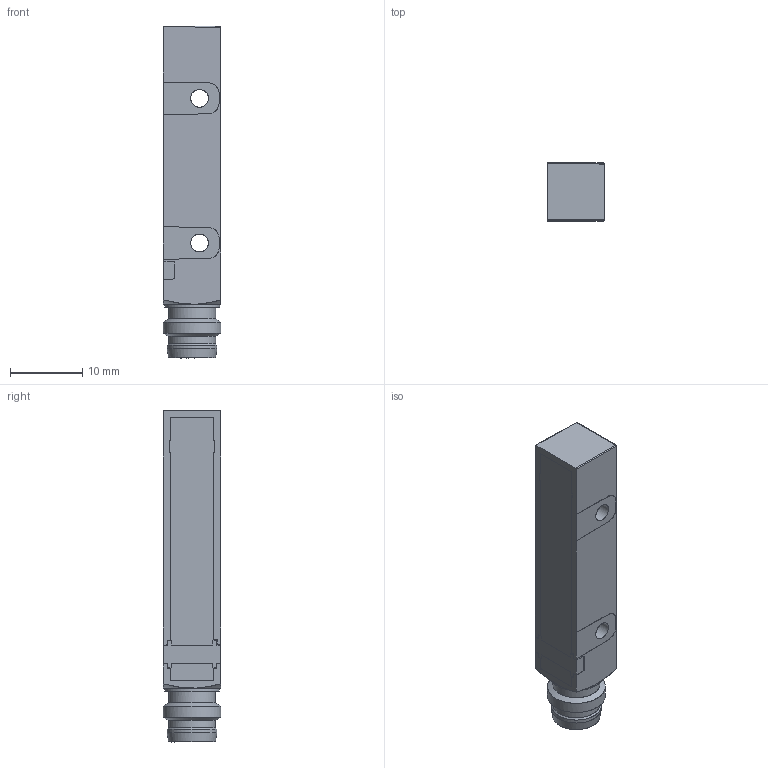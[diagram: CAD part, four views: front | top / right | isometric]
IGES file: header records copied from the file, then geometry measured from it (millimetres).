
Start section: C
Global section: file name: IFFM 08xxxA1_O1S35L_G2.igs; native system:  By UGS Corp.; preprocessor: XPlus GENERIC/IGES 3.0; author: Author; organization: Title; date: 20140204.095302; units: millimetre
Bounding box: 8.01 x 8 x 45.9 mm (x, y, z)
Surface area: 1768.2 mm2 (no closed solid volume)
Topology: 0 solids, 0 shells, 195 faces, 1139 edges, 1136 vertices
Faces by surface type: bspline 195
